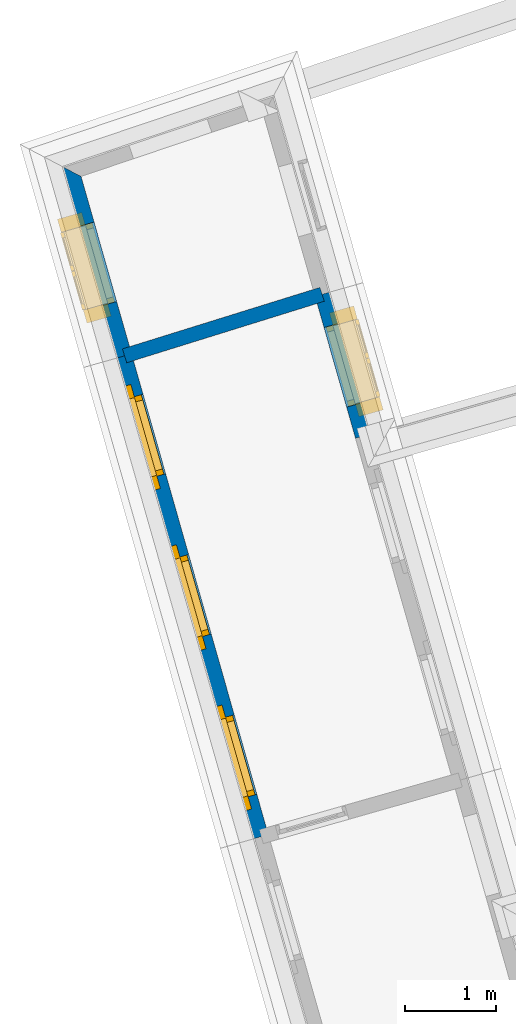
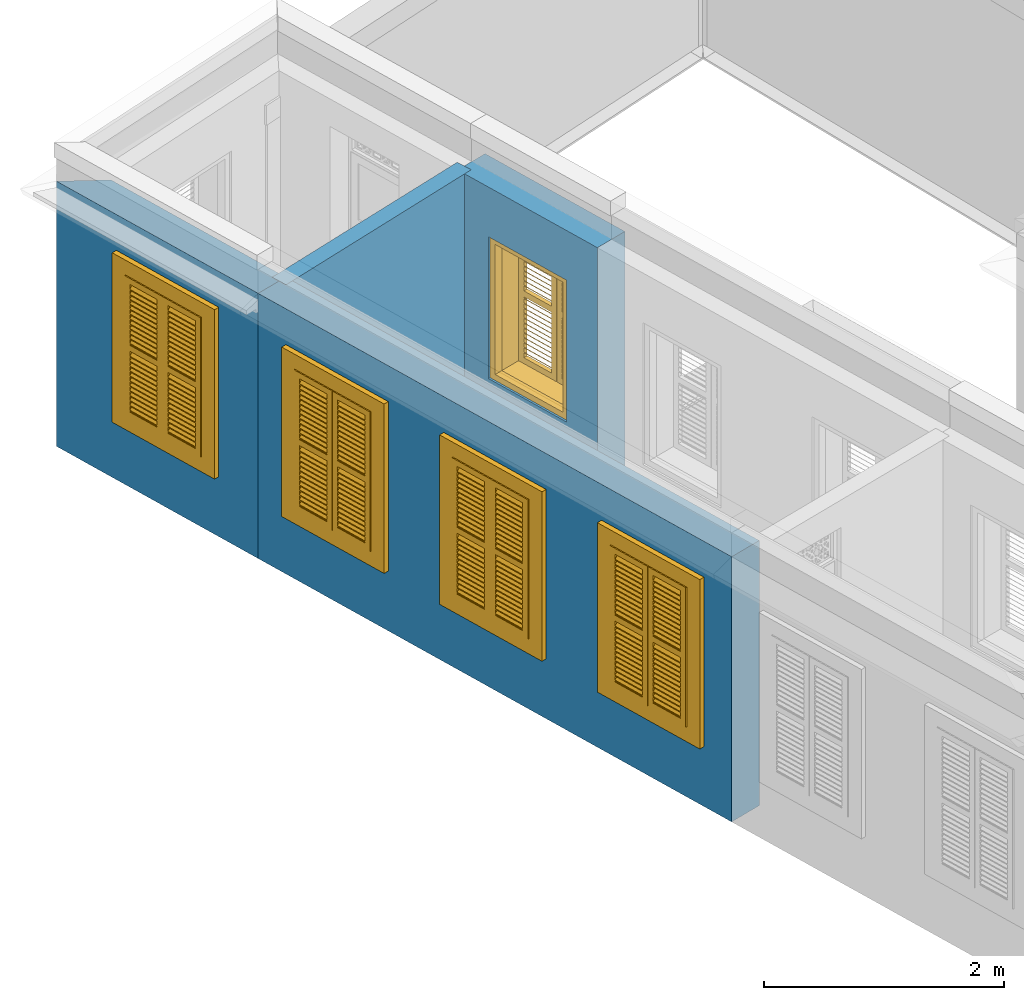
# One storey, part 7 of 13: 5 windows, 4 walls, 5 openings.
"""IFC4 building model written with IfcOpenShell, lengths in metres."""

import ifcopenshell
import ifcopenshell.guid

model = None  # the IFC model being written
_history = None  # IfcOwnerHistory: only IFC2X3 demands one
_inside = {}  # id of a spatial element -> (the spatial element, [elements in it])
_under = {}  # id of a project, library or spatial element -> (it, [spatial elements below it])
_declared = {}  # id of a project -> (the project, [libraries it declares])
_typed = {}  # id of a type object -> (the type object, [elements of that type])
_made_of = {}  # id of a material, layer set ... -> (it, [elements and type objects made of it])


def new_model(schema):
    """Start an empty IFC model of exactly this schema.

    Asked for "IFC4X3", IfcOpenShell would pick the latest addendum, in which some entities
    have other attributes; the version numbers below select the first issue.
    IFC2X3 requires an IfcOwnerHistory on every rooted entity: one is made here for all.
    """
    global model, _history
    if schema == "IFC4X3":
        model = ifcopenshell.file(schema_version=(4, 3, 0, 0))
    else:
        model = ifcopenshell.file(schema=schema)
    _inside.clear()
    _under.clear()
    _declared.clear()
    _typed.clear()
    _made_of.clear()
    _history = None
    if model.schema == "IFC2X3":
        org = make("IfcOrganization", Name="unknown")
        user = make(
            "IfcPersonAndOrganization",
            ThePerson=make("IfcPerson", FamilyName="unknown"),
            TheOrganization=org,
        )
        app = make(
            "IfcApplication",
            ApplicationDeveloper=org,
            Version="unknown",
            ApplicationFullName="unknown",
            ApplicationIdentifier="unknown",
        )
        _history = make(
            "IfcOwnerHistory",
            OwningUser=user,
            OwningApplication=app,
            ChangeAction="ADDED",
            CreationDate=0,
        )
    return model


def make(cls, **values):
    """One entity of the class cls with the attributes given. An attribute that is None is left unset."""
    return model.create_entity(
        cls, **{name: value for name, value in values.items() if value is not None}
    )


def rooted(cls, **values):
    """An entity with a GlobalId (a new one), such as an element, a storey or a relation."""
    return make(cls, GlobalId=ifcopenshell.guid.new(), OwnerHistory=_history, **values)


def si_unit(unit_type, name, prefix=None):
    """IfcSIUnit, for example si_unit("LENGTHUNIT", "METRE", prefix="MILLI")."""
    return make("IfcSIUnit", UnitType=unit_type, Prefix=prefix, Name=name)


def assignment(units):
    """IfcUnitAssignment: the units of a project."""
    return None if units is None else make("IfcUnitAssignment", Units=units)


def point(xyz):
    """IfcCartesianPoint."""
    return None if xyz is None else make("IfcCartesianPoint", Coordinates=xyz)


def direction(xyz):
    """IfcDirection."""
    return None if xyz is None else make("IfcDirection", DirectionRatios=xyz)


def frame(location, z_axis=None, x_axis=None):
    """IfcAxis2Placement3D, a coordinate frame: its origin and axes. An axis left out is left unset."""
    return make(
        "IfcAxis2Placement3D",
        Location=point(location),
        Axis=direction(z_axis),
        RefDirection=direction(x_axis),
    )


def origin():
    """The frame at (0, 0, 0) with its axes left unset."""
    return frame((0.0, 0.0, 0.0))


def origin_with_axes():
    """The frame at (0, 0, 0) with the z axis (0, 0, 1) and the x axis (1, 0, 0) written out."""
    return frame((0.0, 0.0, 0.0), z_axis=(0.0, 0.0, 1.0), x_axis=(1.0, 0.0, 0.0))


def place(relative_to, where):
    """IfcLocalPlacement: puts the frame where relative to a parent placement (None: the world)."""
    return make(
        "IfcLocalPlacement", PlacementRelTo=relative_to, RelativePlacement=where
    )


def context(
    kind, dimensions, precision=None, world=None, true_north=None, identifier=None
):
    """IfcGeometricRepresentationContext, for example the 3D "Model" context."""
    return make(
        "IfcGeometricRepresentationContext",
        ContextIdentifier=identifier,
        ContextType=kind,
        CoordinateSpaceDimension=dimensions,
        Precision=precision,
        WorldCoordinateSystem=world,
        TrueNorth=true_north,
    )


def subcontext(parent, identifier, kind, view, scale=None):
    """IfcGeometricRepresentationSubContext, for example "Body" below "Model"."""
    return make(
        "IfcGeometricRepresentationSubContext",
        ContextIdentifier=identifier,
        ContextType=kind,
        ParentContext=parent,
        TargetScale=scale,
        TargetView=view,
    )


def project(units=None, contexts=None):
    """IfcProject with its units and contexts."""
    return rooted(
        "IfcProject",
        Name="project",
        RepresentationContexts=contexts,
        UnitsInContext=assignment(units),
    )


def spatial(cls, under=None, at=None, **own):
    """A site, building, storey or space (cls), placed at a placement, below another one or the project."""
    s = rooted(cls, ObjectPlacement=at, **own)
    if under is not None:
        _under.setdefault(under.id(), (under, []))[1].append(s)
    return s


def polyline(points):
    """IfcPolyline through the points."""
    return make("IfcPolyline", Points=[point(p) for p in points])


def outline(outer, holes=None, kind="AREA"):
    """IfcArbitraryClosedProfileDef: a profile drawn as a closed curve; with holes, ...WithVoids."""
    if holes is None:
        return make("IfcArbitraryClosedProfileDef", ProfileType=kind, OuterCurve=outer)
    return make(
        "IfcArbitraryProfileDefWithVoids",
        ProfileType=kind,
        OuterCurve=outer,
        InnerCurves=holes,
    )


def extrude(swept, where, along, depth):
    """IfcExtrudedAreaSolid: the profile swept, set in the frame where, extruded along a direction by depth."""
    return make(
        "IfcExtrudedAreaSolid",
        SweptArea=swept,
        Position=where,
        ExtrudedDirection=direction(along),
        Depth=depth,
    )


def faces_of(points, faces, orient=None, outer=None):
    """IfcFace entities. A face is a list of loops; a loop is a list of indices into points, from 0.

    orient and outer hold one flag for each loop. By default every Orientation is true, the
    first loop of a face is its IfcFaceOuterBound and the others are IfcFaceBound.
    """
    made = []
    for i, loops in enumerate(faces):
        bounds = []
        for j, loop in enumerate(loops):
            is_outer = j == 0 if outer is None else outer[i][j]
            bounds.append(
                make(
                    "IfcFaceOuterBound" if is_outer else "IfcFaceBound",
                    Bound=make("IfcPolyLoop", Polygon=[points[k] for k in loop]),
                    Orientation=True if orient is None else orient[i][j],
                )
            )
        made.append(make("IfcFace", Bounds=bounds))
    return made


def faceted_brep(points, faces, orient=None, outer=None, voids=None):
    """IfcFacetedBrep: a solid bounded by flat faces; with voids (closed shells), ...WithVoids."""
    shared = [point(p) for p in points]
    hull = make("IfcClosedShell", CfsFaces=faces_of(shared, faces, orient, outer))
    if voids is None:
        return make("IfcFacetedBrep", Outer=hull)
    return make(
        "IfcFacetedBrepWithVoids",
        Outer=hull,
        Voids=[
            make(cls, CfsFaces=faces_of(shared, fs, o, b)) for cls, fs, o, b in voids
        ],
    )


def shape(context_of_items, identifier, shape_type, items):
    """IfcShapeRepresentation: the items that make up one representation, for example the "Body"."""
    return make(
        "IfcShapeRepresentation",
        ContextOfItems=context_of_items,
        RepresentationIdentifier=identifier,
        RepresentationType=shape_type,
        Items=items,
    )


def source(mapping_origin, context_of_items, identifier, shape_type, items):
    """IfcRepresentationMap: a shape defined once, which mapped items show again and again."""
    return make(
        "IfcRepresentationMap",
        MappingOrigin=mapping_origin,
        MappedRepresentation=shape(context_of_items, identifier, shape_type, items),
    )


def transform(
    local_origin,
    x_axis=None,
    y_axis=None,
    z_axis=None,
    scale=None,
    scale2=None,
    scale3=None,
    uniform=True,
):
    """IfcCartesianTransformationOperator3D, or its non-uniform kind. x_axis, y_axis, z_axis: its Axis1, 2, 3."""
    if uniform:
        return make(
            "IfcCartesianTransformationOperator3D",
            Axis1=direction(x_axis),
            Axis2=direction(y_axis),
            LocalOrigin=point(local_origin),
            Scale=scale,
            Axis3=direction(z_axis),
        )
    return make(
        "IfcCartesianTransformationOperator3DnonUniform",
        Axis1=direction(x_axis),
        Axis2=direction(y_axis),
        LocalOrigin=point(local_origin),
        Scale=scale,
        Axis3=direction(z_axis),
        Scale2=scale2,
        Scale3=scale3,
    )


def mapped(mapping_source, mapping_target):
    """IfcMappedItem: shows the shape of a source again, moved by a transform."""
    return make(
        "IfcMappedItem", MappingSource=mapping_source, MappingTarget=mapping_target
    )


def material(Name=None, Category=None):
    """IfcMaterial."""
    return make("IfcMaterial", Name=Name, Category=Category)


def layer(
    of_material, thickness, ventilated=None, Name=None, Category=None, Priority=None
):
    """IfcMaterialLayer: one layer of a wall or slab, of a material (None: an air gap)."""
    return make(
        "IfcMaterialLayer",
        Material=of_material,
        LayerThickness=thickness,
        IsVentilated=ventilated,
        Name=Name,
        Category=Category,
        Priority=Priority,
    )


def layer_set(layers, Name=None):
    """IfcMaterialLayerSet."""
    return make("IfcMaterialLayerSet", MaterialLayers=layers, LayerSetName=Name)


def layer_usage(for_layer_set, set_direction, sense, offset, extent=None):
    """IfcMaterialLayerSetUsage: how a layer set lies in its element."""
    return make(
        "IfcMaterialLayerSetUsage",
        ForLayerSet=for_layer_set,
        LayerSetDirection=set_direction,
        DirectionSense=sense,
        OffsetFromReferenceLine=offset,
        ReferenceExtent=extent,
    )


def made_of(thing, what):
    """Note that an element or type object is made of a material, layer set ...; save() writes the relation."""
    if what is not None:
        _made_of.setdefault(what.id(), (what, []))[1].append(thing)
    return thing


def type_object(cls, material=None, **own):
    """A type object (cls), such as IfcWallType, which elements share."""
    return made_of(rooted(cls, **own), material)


def type_shapes(of_type, sources):
    """Give a type object the sources (RepresentationMaps) that its elements show as mapped items."""
    of_type.RepresentationMaps = sources


def element(
    cls,
    number,
    at=None,
    inside=None,
    cuts=None,
    type_object=None,
    material=None,
    context=None,
    identifier="Body",
    shape_type=None,
    held_by="IfcProductDefinitionShape",
    body=None,
    shapes=None,
    **own,
):
    """One element of the class cls, such as IfcWall. Its Tag is "e" and its number.

    at: its placement. inside: the storey or other place that contains it. cuts: it is an
    opening in that element (IfcRelVoidsElement). A single representation is given by context,
    identifier, shape_type and body (its items); several are given by shapes. held_by: the class
    of the entity that holds the representations. save() writes the other relations.
    """
    e = rooted(cls, Tag="e%d" % number, ObjectPlacement=at, **own)
    if body is not None:
        shapes = [shape(context, identifier, shape_type, body)]
    if shapes is not None:
        e.Representation = make(held_by, Representations=shapes)
    if inside is not None:
        _inside.setdefault(inside.id(), (inside, []))[1].append(e)
    if cuts is not None:
        rooted(
            "IfcRelVoidsElement", RelatingBuildingElement=cuts, RelatedOpeningElement=e
        )
    if type_object is not None:
        _typed.setdefault(type_object.id(), (type_object, []))[1].append(e)
    return made_of(e, material)


def fill(opening, filler):
    """IfcRelFillsElement: the door or window that sits in an opening."""
    return rooted(
        "IfcRelFillsElement",
        RelatingOpeningElement=opening,
        RelatedBuildingElement=filler,
    )


def aggregate(whole, parts):
    """IfcRelAggregates: a whole, such as a stair, and the parts it consists of."""
    return rooted("IfcRelAggregates", RelatingObject=whole, RelatedObjects=parts)


def save(model, path):
    """Write the relations noted so far, then the file.

    IfcRelAggregates (storeys below a building ...), IfcRelContainedInSpatialStructure (elements
    in a storey), IfcRelDefinesByType, IfcRelAssociatesMaterial and IfcRelDeclares: one each for
    every whole, place, type object, material and project.
    """
    for whole, parts in _under.values():
        aggregate(whole, parts)
    for where, things in _inside.values():
        rooted(
            "IfcRelContainedInSpatialStructure",
            RelatedElements=things,
            RelatingStructure=where,
        )
    for kind, things in _typed.values():
        rooted("IfcRelDefinesByType", RelatedObjects=things, RelatingType=kind)
    for what, things in _made_of.values():
        rooted("IfcRelAssociatesMaterial", RelatedObjects=things, RelatingMaterial=what)
    for by, libraries in _declared.values():
        rooted("IfcRelDeclares", RelatingContext=by, RelatedDefinitions=libraries)
    model.write(path)


model = new_model("IFC4")

# Units and contexts
model_context = context("Model", 3, world=origin_with_axes())
body_context = subcontext(model_context, "Body", "Model", "MODEL_VIEW")
ifc_project = project(units=[si_unit("PLANEANGLEUNIT", "RADIAN"), si_unit("MASSUNIT", "GRAM", prefix="KILO"), si_unit("FORCEUNIT", "NEWTON", prefix="KILO"), si_unit("LENGTHUNIT", "METRE"), si_unit("AREAUNIT", "SQUARE_METRE"), si_unit("VOLUMEUNIT", "CUBIC_METRE")], contexts=[model_context, model_context])

# Site, building, storey
site_placement = place(None, origin_with_axes())
site = spatial("IfcSite", under=ifc_project, at=site_placement, Name="Site plot-3", CompositionType="ELEMENT")
building_placement = place(None, origin_with_axes())
building = spatial("IfcBuilding", under=site, at=building_placement, Name="Building plot-3", CompositionType="ELEMENT")
storey_placement = place(None, frame((0.0, 0.0, 3.3), z_axis=(0.0, 0.0, 1.0), x_axis=(1.0, 0.0, 0.0)))
storey = spatial("IfcBuildingStorey", under=building, at=storey_placement, Name="plot-3 1", CompositionType="ELEMENT", Elevation=3.3)

# Wall, opening, window
ifc_material_1 = material(Name="Masonry")
ifc_layer_1 = layer(ifc_material_1, 0.33, ventilated=False)
ifc_layer_set_1 = layer_set([ifc_layer_1], Name="exterior_0.08_0.25")
ifc_layer_usage_1 = layer_usage(ifc_layer_set_1, "AXIS2", "POSITIVE", -0.25)
wall_type_1 = type_object("IfcWallType", Name="exterior_0.08_0.25", PredefinedType="SOLIDWALL", material=ifc_layer_set_1)
wall_1_placement = place(storey_placement, frame((10.0595193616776, 25.1326103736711, 0.0), z_axis=(0.0, 0.0, 1.0), x_axis=(-0.273606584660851, 0.961841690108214, 0.0)))
wall_1 = element("IfcWall", 1, at=wall_1_placement, inside=storey, type_object=wall_type_1, material=ifc_layer_usage_1, Name="exterior", context=body_context, shape_type="SweptSolid", body=[
    extrude(outline(polyline([(2.27863534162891e-15, 0.0800000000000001), (-6.64603006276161e-15, -0.25), (1.62516782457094, -0.250000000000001), (1.62516782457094, 0.0800000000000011), (2.27863534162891e-15, 0.0800000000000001)])), origin_with_axes(), (0.0, 0.0, 1.0), 2.7),
])
opening_1_placement = place(wall_1_placement, frame((0.357583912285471, 0.0, 0.75)))
opening_1 = element("IfcOpeningElement", 2, at=opening_1_placement, cuts=wall_1, Name="My Opening", ObjectType="Opening", context=body_context, shape_type="SweptSolid", body=[
    extrude(outline(polyline([(0.0, -0.270000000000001), (0.909999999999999, -0.270000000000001), (0.909999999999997, 1.1), (-2.27595720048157e-15, 1.1), (0.0, -0.270000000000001)])), origin_with_axes(), (0.0, 0.0, 1.0), 1.445),
])
window_type = type_object("IfcWindowType", Name="shuttered_shorter", PartitioningType="DOUBLE_PANEL_HORIZONTAL", PredefinedType="NOTDEFINED")
shared_shape = source(origin(), body_context, "Body", "Brep", [
    faceted_brep([(0.393, 0.0, 0.622), (0.074, 0.0, 0.622), (0.074, 0.0, 0.632), (0.393, 0.0, 0.632), (0.074, -0.04, 0.592), (0.393, -0.04, 0.592), (0.393, -0.04, 0.582), (0.074, -0.04, 0.582), (0.517, 0.0, 0.682), (0.836, 0.0, 0.682), (0.836, 0.0, 0.672), (0.517, 0.0, 0.672), (0.517, -0.04, 0.642), (0.836, -0.04, 0.642), (0.836, -0.04, 0.632), (0.517, -0.04, 0.632), (0.517, 0.0, 0.632), (0.836, 0.0, 0.632), (0.836, 0.0, 0.622), (0.517, 0.0, 0.622), (0.517, -0.04, 0.592), (0.836, -0.04, 0.592), (0.836, -0.04, 0.582), (0.517, -0.04, 0.582), (0.517, 0.0, 0.232), (0.836, 0.0, 0.232), (0.836, 0.0, 0.222), (0.517, 0.0, 0.222), (0.517, -0.04, 0.192), (0.836, -0.04, 0.192), (0.836, -0.04, 0.182), (0.517, -0.04, 0.182), (0.517, 0.0, 0.532), (0.836, 0.0, 0.532), (0.836, 0.0, 0.522), (0.517, 0.0, 0.522), (0.517, -0.04, 0.492), (0.836, -0.04, 0.492), (0.836, -0.04, 0.482), (0.517, -0.04, 0.482), (0.517, 0.0, 0.482), (0.836, 0.0, 0.482), (0.836, 0.0, 0.472), (0.517, 0.0, 0.472), (0.517, -0.04, 0.442), (0.836, -0.04, 0.442), (0.836, -0.04, 0.432), (0.517, -0.04, 0.432), (0.517, 0.0, 0.582), (0.836, 0.0, 0.582), (0.836, 0.0, 0.572), (0.517, 0.0, 0.572), (0.517, -0.04, 0.542), (0.836, -0.04, 0.542), (0.836, -0.04, 0.532), (0.517, -0.04, 0.532), (0.517, 0.0, 0.182), (0.836, 0.0, 0.182), (0.836, 0.0, 0.172), (0.517, 0.0, 0.172), (0.517, -0.04, 0.142), (0.836, -0.04, 0.142), (0.836, -0.04, 0.132), (0.517, -0.04, 0.132), (0.517, 0.0, 0.382), (0.836, 0.0, 0.382), (0.836, 0.0, 0.372), (0.517, 0.0, 0.372), (0.517, -0.04, 0.342), (0.836, -0.04, 0.342), (0.836, -0.04, 0.332), (0.517, -0.04, 0.332), (0.517, 0.0, 0.432), (0.836, 0.0, 0.432), (0.836, 0.0, 0.422), (0.517, 0.0, 0.422), (0.517, -0.04, 0.392), (0.836, -0.04, 0.392), (0.836, -0.04, 0.382), (0.517, -0.04, 0.382), (0.517, 0.0, 0.132), (0.836, 0.0, 0.132), (0.836, 0.0, 0.122), (0.517, 0.0, 0.122), (0.517, -0.04, 0.092), (0.836, -0.04, 0.092), (0.836, -0.04, 0.082), (0.517, -0.04, 0.082), (0.517, 0.0, 0.282), (0.836, 0.0, 0.282), (0.836, 0.0, 0.272), (0.517, 0.0, 0.272), (0.517, -0.04, 0.242), (0.836, -0.04, 0.242), (0.836, -0.04, 0.232), (0.517, -0.04, 0.232), (0.517, 0.0, 0.332), (0.836, 0.0, 0.332), (0.836, 0.0, 0.322), (0.517, 0.0, 0.322), (0.517, -0.04, 0.292), (0.836, -0.04, 0.292), (0.836, -0.04, 0.282), (0.517, -0.04, 0.282), (0.517, 0.0, 1.362667), (0.836, 0.0, 1.362667), (0.836, 0.0, 1.352667), (0.517, 0.0, 1.352667), (0.517, -0.04, 1.322667), (0.836, -0.04, 1.322667), (0.836, -0.04, 1.312667), (0.517, -0.04, 1.312667), (0.517, 0.0, 1.312667), (0.836, 0.0, 1.312667), (0.836, 0.0, 1.302667), (0.517, 0.0, 1.302667), (0.517, -0.04, 1.272667), (0.836, -0.04, 1.272667), (0.836, -0.04, 1.262667), (0.517, -0.04, 1.262667), (0.517, 0.0, 0.912667), (0.836, 0.0, 0.912667), (0.836, 0.0, 0.902667), (0.517, 0.0, 0.902667), (0.517, -0.04, 0.872667), (0.836, -0.04, 0.872667), (0.836, -0.04, 0.862667), (0.517, -0.04, 0.862667), (0.517, 0.0, 1.212667), (0.836, 0.0, 1.212667), (0.836, 0.0, 1.202667), (0.517, 0.0, 1.202667), (0.517, -0.04, 1.172667), (0.836, -0.04, 1.172667), (0.836, -0.04, 1.162667), (0.517, -0.04, 1.162667), (0.517, 0.0, 1.162667), (0.836, 0.0, 1.162667), (0.836, 0.0, 1.152667), (0.517, 0.0, 1.152667), (0.517, -0.04, 1.122667), (0.836, -0.04, 1.122667), (0.836, -0.04, 1.112667), (0.517, -0.04, 1.112667), (0.517, 0.0, 1.262667), (0.836, 0.0, 1.262667), (0.836, 0.0, 1.252667), (0.517, 0.0, 1.252667), (0.517, -0.04, 1.222667), (0.836, -0.04, 1.222667), (0.836, -0.04, 1.212667), (0.517, -0.04, 1.212667), (0.517, 0.0, 0.862667), (0.836, 0.0, 0.862667), (0.836, 0.0, 0.852667), (0.517, 0.0, 0.852667), (0.517, -0.04, 0.822667), (0.836, -0.04, 0.822667), (0.836, -0.04, 0.812667), (0.517, -0.04, 0.812667), (0.517, 0.0, 1.062667), (0.836, 0.0, 1.062667), (0.836, 0.0, 1.052667), (0.517, 0.0, 1.052667), (0.517, -0.04, 1.022667), (0.836, -0.04, 1.022667), (0.836, -0.04, 1.012667), (0.517, -0.04, 1.012667), (0.517, 0.0, 1.112667), (0.836, 0.0, 1.112667), (0.836, 0.0, 1.102667), (0.517, 0.0, 1.102667), (0.517, -0.04, 1.072667), (0.836, -0.04, 1.072667), (0.836, -0.04, 1.062667), (0.517, -0.04, 1.062667), (0.517, 0.0, 0.812667), (0.836, 0.0, 0.812667), (0.836, 0.0, 0.802667), (0.517, 0.0, 0.802667), (0.517, -0.04, 0.772667), (0.836, -0.04, 0.772667), (0.836, -0.04, 0.762667), (0.517, -0.04, 0.762667), (0.517, 0.0, 0.962667), (0.836, 0.0, 0.962667), (0.836, 0.0, 0.952667), (0.517, 0.0, 0.952667), (0.517, -0.04, 0.922667), (0.836, -0.04, 0.922667), (0.836, -0.04, 0.912667), (0.517, -0.04, 0.912667), (0.517, 0.0, 1.012667), (0.836, 0.0, 1.012667), (0.836, 0.0, 1.002667), (0.517, 0.0, 1.002667), (0.517, -0.04, 0.972667), (0.836, -0.04, 0.972667), (0.836, -0.04, 0.962667), (0.517, -0.04, 0.962667), (0.074, 0.0, 0.682), (0.393, 0.0, 0.682), (0.393, 0.0, 0.672), (0.074, 0.0, 0.672), (0.074, -0.04, 0.642), (0.393, -0.04, 0.642), (0.393, -0.04, 0.632), (0.074, -0.04, 0.632), (0.074, 0.0, 0.232), (0.393, 0.0, 0.232), (0.393, 0.0, 0.222), (0.074, 0.0, 0.222), (0.074, -0.04, 0.192), (0.393, -0.04, 0.192), (0.393, -0.04, 0.182), (0.074, -0.04, 0.182), (0.074, 0.0, 0.532), (0.393, 0.0, 0.532), (0.393, 0.0, 0.522), (0.074, 0.0, 0.522), (0.074, -0.04, 0.492), (0.393, -0.04, 0.492), (0.393, -0.04, 0.482), (0.074, -0.04, 0.482), (0.074, 0.0, 0.482), (0.393, 0.0, 0.482), (0.393, 0.0, 0.472), (0.074, 0.0, 0.472), (0.074, -0.04, 0.442), (0.393, -0.04, 0.442), (0.393, -0.04, 0.432), (0.074, -0.04, 0.432), (0.074, 0.0, 0.582), (0.393, 0.0, 0.582), (0.393, 0.0, 0.572), (0.074, 0.0, 0.572), (0.074, -0.04, 0.542), (0.393, -0.04, 0.542), (0.393, -0.04, 0.532), (0.074, -0.04, 0.532), (0.074, 0.0, 0.182), (0.393, 0.0, 0.182), (0.393, 0.0, 0.172), (0.074, 0.0, 0.172), (0.074, -0.04, 0.142), (0.393, -0.04, 0.142), (0.393, -0.04, 0.132), (0.074, -0.04, 0.132), (0.074, 0.0, 0.382), (0.393, 0.0, 0.382), (0.393, 0.0, 0.372), (0.074, 0.0, 0.372), (0.074, -0.04, 0.342), (0.393, -0.04, 0.342), (0.393, -0.04, 0.332), (0.074, -0.04, 0.332), (0.074, 0.0, 0.432), (0.393, 0.0, 0.432), (0.393, 0.0, 0.422), (0.074, 0.0, 0.422), (0.074, -0.04, 0.392), (0.393, -0.04, 0.392), (0.393, -0.04, 0.382), (0.074, -0.04, 0.382), (0.074, 0.0, 0.132), (0.393, 0.0, 0.132), (0.393, 0.0, 0.122), (0.074, 0.0, 0.122), (0.074, -0.04, 0.092), (0.393, -0.04, 0.092), (0.393, -0.04, 0.082), (0.074, -0.04, 0.082), (0.074, 0.0, 0.282), (0.393, 0.0, 0.282), (0.393, 0.0, 0.272), (0.074, 0.0, 0.272), (0.074, -0.04, 0.242), (0.393, -0.04, 0.242), (0.393, -0.04, 0.232), (0.074, -0.04, 0.232), (0.074, 0.0, 0.332), (0.393, 0.0, 0.332), (0.393, 0.0, 0.322), (0.074, 0.0, 0.322), (0.074, -0.04, 0.292), (0.393, -0.04, 0.292), (0.393, -0.04, 0.282), (0.074, -0.04, 0.282), (0.074, 0.0, 1.362667), (0.393, 0.0, 1.362667), (0.393, 0.0, 1.352667), (0.074, 0.0, 1.352667), (0.074, -0.04, 1.322667), (0.393, -0.04, 1.322667), (0.393, -0.04, 1.312667), (0.074, -0.04, 1.312667), (0.074, 0.0, 1.312667), (0.393, 0.0, 1.312667), (0.393, 0.0, 1.302667), (0.074, 0.0, 1.302667), (0.074, -0.04, 1.272667), (0.393, -0.04, 1.272667), (0.393, -0.04, 1.262667), (0.074, -0.04, 1.262667), (0.074, 0.0, 0.912667), (0.393, 0.0, 0.912667), (0.393, 0.0, 0.902667), (0.074, 0.0, 0.902667), (0.074, -0.04, 0.872667), (0.393, -0.04, 0.872667), (0.393, -0.04, 0.862667), (0.074, -0.04, 0.862667), (0.074, 0.0, 1.212667), (0.393, 0.0, 1.212667), (0.393, 0.0, 1.202667), (0.074, 0.0, 1.202667), (0.074, -0.04, 1.172667), (0.393, -0.04, 1.172667), (0.393, -0.04, 1.162667), (0.074, -0.04, 1.162667), (0.074, 0.0, 1.162667), (0.393, 0.0, 1.162667), (0.393, 0.0, 1.152667), (0.074, 0.0, 1.152667), (0.074, -0.04, 1.122667), (0.393, -0.04, 1.122667), (0.393, -0.04, 1.112667), (0.074, -0.04, 1.112667), (0.074, 0.0, 1.262667), (0.393, 0.0, 1.262667), (0.393, 0.0, 1.252667), (0.074, 0.0, 1.252667), (0.074, -0.04, 1.222667), (0.393, -0.04, 1.222667), (0.393, -0.04, 1.212667), (0.074, -0.04, 1.212667), (0.074, 0.0, 0.862667), (0.393, 0.0, 0.862667), (0.393, 0.0, 0.852667), (0.074, 0.0, 0.852667), (0.074, -0.04, 0.822667), (0.393, -0.04, 0.822667), (0.393, -0.04, 0.812667), (0.074, -0.04, 0.812667), (0.074, 0.0, 1.062667), (0.393, 0.0, 1.062667), (0.393, 0.0, 1.052667), (0.074, 0.0, 1.052667), (0.074, -0.04, 1.022667), (0.393, -0.04, 1.022667), (0.393, -0.04, 1.012667), (0.074, -0.04, 1.012667), (0.074, 0.0, 1.112667), (0.393, 0.0, 1.112667), (0.393, 0.0, 1.102667), (0.074, 0.0, 1.102667), (0.074, -0.04, 1.072667), (0.393, -0.04, 1.072667), (0.393, -0.04, 1.062667), (0.074, -0.04, 1.062667), (0.074, 0.0, 0.812667), (0.393, 0.0, 0.812667), (0.393, 0.0, 0.802667), (0.074, 0.0, 0.802667), (0.074, -0.04, 0.772667), (0.393, -0.04, 0.772667), (0.393, -0.04, 0.762667), (0.074, -0.04, 0.762667), (0.074, 0.0, 0.962667), (0.393, 0.0, 0.962667), (0.393, 0.0, 0.952667), (0.074, 0.0, 0.952667), (0.074, -0.04, 0.922667), (0.393, -0.04, 0.922667), (0.393, -0.04, 0.912667), (0.074, -0.04, 0.912667), (0.074, 0.0, 1.012667), (0.393, 0.0, 1.012667), (0.393, 0.0, 1.002667), (0.074, 0.0, 1.002667), (0.074, -0.04, 0.972667), (0.393, -0.04, 0.972667), (0.393, -0.04, 0.962667), (0.074, -0.04, 0.962667), (0.517, -0.04, 0.072), (0.457, -0.04, 0.012), (0.896, -0.04, 0.012), (0.836, -0.04, 0.072), (0.457, -0.04, 0.692667), (0.517, -0.04, 0.692667), (0.457, 0.0, 0.012), (0.896, 0.0, 0.012), (0.836, -0.04, 0.692667), (0.896, -0.04, 0.692667), (0.836, 0.0, 0.072), (0.517, 0.0, 0.072), (0.457, 0.0, 0.692667), (0.517, 0.0, 0.692667), (0.517, -0.04, 0.752666), (0.457, -0.04, 0.752666), (0.896, 0.0, 0.692667), (0.836, 0.0, 0.692667), (0.836, -0.04, 0.752666), (0.896, -0.04, 0.752666), (0.457, 0.0, 0.752666), (0.457, -0.04, 1.433333), (0.517, -0.04, 1.373333), (0.896, 0.0, 0.752666), (0.836, -0.04, 1.373333), (0.896, -0.04, 1.433333), (0.457, 0.0, 1.433333), (0.517, 0.0, 0.752666), (0.836, 0.0, 0.752666), (0.517, 0.0, 1.373333), (0.896, 0.0, 1.433333), (0.836, 0.0, 1.373333), (0.074, -0.04, 0.072), (0.014, -0.04, 0.012), (0.453, -0.04, 0.012), (0.393, -0.04, 0.072), (0.014, -0.04, 0.692667), (0.074, -0.04, 0.692667), (0.014, 0.0, 0.012), (0.453, 0.0, 0.012), (0.393, -0.04, 0.692667), (0.453, -0.04, 0.692667), (0.393, 0.0, 0.072), (0.074, 0.0, 0.072), (0.014, 0.0, 0.692667), (0.074, 0.0, 0.692667), (0.074, -0.04, 0.752666), (0.014, -0.04, 0.752666), (0.453, 0.0, 0.692667), (0.393, 0.0, 0.692667), (0.393, -0.04, 0.752666), (0.453, -0.04, 0.752666), (0.014, 0.0, 0.752666), (0.014, -0.04, 1.433333), (0.074, -0.04, 1.373333), (0.453, 0.0, 0.752666), (0.393, -0.04, 1.373333), (0.453, -0.04, 1.433333), (0.014, 0.0, 1.433333), (0.074, 0.0, 0.752666), (0.393, 0.0, 0.752666), (0.074, 0.0, 1.373333), (0.453, 0.0, 1.433333), (0.393, 0.0, 1.373333), (0.0, 0.33, 1.445), (0.91, 0.33, 1.445), (0.85, 0.33, 1.385), (0.06, 0.33, 1.385), (0.91, 0.25, 1.445), (0.0, 0.25, 1.445), (0.91, 0.25, 1.445), (0.85, 0.33, 0.06), (0.91, 0.33, 0.0), (0.85, 0.25, 1.385), (0.06, 0.25, 1.385), (0.0, 0.33, 0.0), (0.06, 0.33, 0.06), (0.0, 0.25, 0.0), (0.91, 0.25, 0.0), (0.85, 0.25, 0.06), (0.06, 0.25, 0.06), (1.05, 0.25, 1.585), (-0.14, 0.25, 1.585), (-0.14, -0.03, 1.585), (1.05, -0.03, 1.585), (0.9, -0.03, 1.435), (0.01, -0.03, 1.435), (0.01, 0.25, 1.435), (0.9, 0.25, 1.435), (0.9, 0.25, 0.01), (0.9, -0.03, 0.01), (1.05, -0.03, -0.14), (1.05, 0.25, -0.14), (0.01, -0.03, 0.01), (0.01, 0.25, 0.01), (-0.14, -0.03, -0.14), (-0.14, 0.25, -0.14)], [[[0, 1, 2, 3]], [[4, 5, 3, 2]], [[5, 6, 0, 3]], [[1, 0, 6, 7]], [[2, 1, 7, 4]], [[5, 4, 7, 6]], [[8, 9, 10, 11]], [[12, 13, 9, 8]], [[13, 14, 10, 9]], [[14, 15, 11, 10]], [[15, 12, 8, 11]], [[13, 12, 15, 14]], [[16, 17, 18, 19]], [[20, 21, 17, 16]], [[21, 22, 18, 17]], [[22, 23, 19, 18]], [[23, 20, 16, 19]], [[21, 20, 23, 22]], [[24, 25, 26, 27]], [[28, 29, 25, 24]], [[29, 30, 26, 25]], [[30, 31, 27, 26]], [[31, 28, 24, 27]], [[29, 28, 31, 30]], [[32, 33, 34, 35]], [[36, 37, 33, 32]], [[37, 38, 34, 33]], [[38, 39, 35, 34]], [[39, 36, 32, 35]], [[37, 36, 39, 38]], [[40, 41, 42, 43]], [[44, 45, 41, 40]], [[45, 46, 42, 41]], [[46, 47, 43, 42]], [[47, 44, 40, 43]], [[45, 44, 47, 46]], [[48, 49, 50, 51]], [[52, 53, 49, 48]], [[53, 54, 50, 49]], [[54, 55, 51, 50]], [[55, 52, 48, 51]], [[53, 52, 55, 54]], [[56, 57, 58, 59]], [[60, 61, 57, 56]], [[61, 62, 58, 57]], [[62, 63, 59, 58]], [[63, 60, 56, 59]], [[61, 60, 63, 62]], [[64, 65, 66, 67]], [[68, 69, 65, 64]], [[69, 70, 66, 65]], [[70, 71, 67, 66]], [[71, 68, 64, 67]], [[69, 68, 71, 70]], [[72, 73, 74, 75]], [[76, 77, 73, 72]], [[77, 78, 74, 73]], [[78, 79, 75, 74]], [[79, 76, 72, 75]], [[77, 76, 79, 78]], [[80, 81, 82, 83]], [[84, 85, 81, 80]], [[85, 86, 82, 81]], [[86, 87, 83, 82]], [[87, 84, 80, 83]], [[85, 84, 87, 86]], [[88, 89, 90, 91]], [[92, 93, 89, 88]], [[93, 94, 90, 89]], [[94, 95, 91, 90]], [[95, 92, 88, 91]], [[93, 92, 95, 94]], [[96, 97, 98, 99]], [[100, 101, 97, 96]], [[101, 102, 98, 97]], [[102, 103, 99, 98]], [[103, 100, 96, 99]], [[101, 100, 103, 102]], [[104, 105, 106, 107]], [[108, 109, 105, 104]], [[109, 110, 106, 105]], [[110, 111, 107, 106]], [[111, 108, 104, 107]], [[109, 108, 111, 110]], [[112, 113, 114, 115]], [[116, 117, 113, 112]], [[117, 118, 114, 113]], [[118, 119, 115, 114]], [[119, 116, 112, 115]], [[117, 116, 119, 118]], [[120, 121, 122, 123]], [[124, 125, 121, 120]], [[125, 126, 122, 121]], [[126, 127, 123, 122]], [[127, 124, 120, 123]], [[125, 124, 127, 126]], [[128, 129, 130, 131]], [[132, 133, 129, 128]], [[133, 134, 130, 129]], [[134, 135, 131, 130]], [[135, 132, 128, 131]], [[133, 132, 135, 134]], [[136, 137, 138, 139]], [[140, 141, 137, 136]], [[141, 142, 138, 137]], [[142, 143, 139, 138]], [[139, 143, 140, 136]], [[141, 140, 143, 142]], [[144, 145, 146, 147]], [[148, 149, 145, 144]], [[149, 150, 146, 145]], [[150, 151, 147, 146]], [[151, 148, 144, 147]], [[149, 148, 151, 150]], [[152, 153, 154, 155]], [[156, 157, 153, 152]], [[157, 158, 154, 153]], [[158, 159, 155, 154]], [[159, 156, 152, 155]], [[157, 156, 159, 158]], [[160, 161, 162, 163]], [[164, 165, 161, 160]], [[165, 166, 162, 161]], [[166, 167, 163, 162]], [[167, 164, 160, 163]], [[165, 164, 167, 166]], [[168, 169, 170, 171]], [[172, 173, 169, 168]], [[173, 174, 170, 169]], [[174, 175, 171, 170]], [[175, 172, 168, 171]], [[173, 172, 175, 174]], [[176, 177, 178, 179]], [[180, 181, 177, 176]], [[181, 182, 178, 177]], [[182, 183, 179, 178]], [[183, 180, 176, 179]], [[181, 180, 183, 182]], [[184, 185, 186, 187]], [[188, 189, 185, 184]], [[189, 190, 186, 185]], [[190, 191, 187, 186]], [[191, 188, 184, 187]], [[189, 188, 191, 190]], [[192, 193, 194, 195]], [[196, 197, 193, 192]], [[197, 198, 194, 193]], [[198, 199, 195, 194]], [[199, 196, 192, 195]], [[197, 196, 199, 198]], [[200, 201, 202, 203]], [[204, 205, 201, 200]], [[205, 206, 202, 201]], [[206, 207, 203, 202]], [[207, 204, 200, 203]], [[205, 204, 207, 206]], [[208, 209, 210, 211]], [[212, 213, 209, 208]], [[213, 214, 210, 209]], [[214, 215, 211, 210]], [[215, 212, 208, 211]], [[213, 212, 215, 214]], [[216, 217, 218, 219]], [[220, 221, 217, 216]], [[221, 222, 218, 217]], [[222, 223, 219, 218]], [[223, 220, 216, 219]], [[221, 220, 223, 222]], [[224, 225, 226, 227]], [[228, 229, 225, 224]], [[229, 230, 226, 225]], [[230, 231, 227, 226]], [[231, 228, 224, 227]], [[229, 228, 231, 230]], [[232, 233, 234, 235]], [[236, 237, 233, 232]], [[237, 238, 234, 233]], [[238, 239, 235, 234]], [[239, 236, 232, 235]], [[237, 236, 239, 238]], [[240, 241, 242, 243]], [[244, 245, 241, 240]], [[245, 246, 242, 241]], [[246, 247, 243, 242]], [[247, 244, 240, 243]], [[245, 244, 247, 246]], [[248, 249, 250, 251]], [[252, 253, 249, 248]], [[253, 254, 250, 249]], [[254, 255, 251, 250]], [[255, 252, 248, 251]], [[253, 252, 255, 254]], [[256, 257, 258, 259]], [[260, 261, 257, 256]], [[261, 262, 258, 257]], [[262, 263, 259, 258]], [[263, 260, 256, 259]], [[261, 260, 263, 262]], [[264, 265, 266, 267]], [[268, 269, 265, 264]], [[269, 270, 266, 265]], [[270, 271, 267, 266]], [[271, 268, 264, 267]], [[269, 268, 271, 270]], [[272, 273, 274, 275]], [[276, 277, 273, 272]], [[277, 278, 274, 273]], [[278, 279, 275, 274]], [[279, 276, 272, 275]], [[277, 276, 279, 278]], [[280, 281, 282, 283]], [[284, 285, 281, 280]], [[285, 286, 282, 281]], [[286, 287, 283, 282]], [[287, 284, 280, 283]], [[285, 284, 287, 286]], [[288, 289, 290, 291]], [[292, 293, 289, 288]], [[293, 294, 290, 289]], [[294, 295, 291, 290]], [[295, 292, 288, 291]], [[293, 292, 295, 294]], [[296, 297, 298, 299]], [[300, 301, 297, 296]], [[301, 302, 298, 297]], [[302, 303, 299, 298]], [[303, 300, 296, 299]], [[301, 300, 303, 302]], [[304, 305, 306, 307]], [[308, 309, 305, 304]], [[309, 310, 306, 305]], [[310, 311, 307, 306]], [[311, 308, 304, 307]], [[309, 308, 311, 310]], [[312, 313, 314, 315]], [[316, 317, 313, 312]], [[317, 318, 314, 313]], [[318, 319, 315, 314]], [[319, 316, 312, 315]], [[317, 316, 319, 318]], [[320, 321, 322, 323]], [[324, 325, 321, 320]], [[325, 326, 322, 321]], [[326, 327, 323, 322]], [[327, 324, 320, 323]], [[325, 324, 327, 326]], [[328, 329, 330, 331]], [[332, 333, 329, 328]], [[333, 334, 330, 329]], [[334, 335, 331, 330]], [[335, 332, 328, 331]], [[333, 332, 335, 334]], [[336, 337, 338, 339]], [[340, 341, 337, 336]], [[341, 342, 338, 337]], [[342, 343, 339, 338]], [[343, 340, 336, 339]], [[341, 340, 343, 342]], [[344, 345, 346, 347]], [[348, 349, 345, 344]], [[349, 350, 346, 345]], [[350, 351, 347, 346]], [[351, 348, 344, 347]], [[349, 348, 351, 350]], [[352, 353, 354, 355]], [[356, 357, 353, 352]], [[357, 358, 354, 353]], [[358, 359, 355, 354]], [[359, 356, 352, 355]], [[357, 356, 359, 358]], [[360, 361, 362, 363]], [[364, 365, 361, 360]], [[365, 366, 362, 361]], [[366, 367, 363, 362]], [[367, 364, 360, 363]], [[365, 364, 367, 366]], [[368, 369, 370, 371]], [[372, 373, 369, 368]], [[373, 374, 370, 369]], [[374, 375, 371, 370]], [[375, 372, 368, 371]], [[373, 372, 375, 374]], [[376, 377, 378, 379]], [[380, 381, 377, 376]], [[381, 382, 378, 377]], [[382, 383, 379, 378]], [[383, 380, 376, 379]], [[381, 380, 383, 382]], [[384, 385, 386, 387]], [[388, 385, 384, 389]], [[390, 391, 386, 385]], [[392, 387, 386, 393]], [[384, 387, 394, 395]], [[390, 385, 388, 396]], [[389, 384, 395, 397]], [[389, 398, 399, 388]], [[390, 395, 394, 391]], [[400, 393, 386, 391]], [[387, 392, 401, 394]], [[402, 392, 393, 403]], [[396, 388, 399, 404]], [[390, 396, 397, 395]], [[392, 389, 397, 401]], [[398, 389, 392, 402]], [[405, 399, 398, 406]], [[394, 401, 400, 391]], [[407, 403, 393, 400]], [[408, 402, 403, 409]], [[404, 399, 405, 410]], [[411, 397, 396, 404]], [[397, 411, 412, 401]], [[398, 402, 412, 411]], [[406, 398, 411, 413]], [[405, 406, 408, 409]], [[401, 412, 407, 400]], [[414, 409, 403, 407]], [[402, 408, 415, 412]], [[405, 409, 414, 410]], [[404, 410, 413, 411]], [[408, 406, 413, 415]], [[412, 415, 414, 407]], [[413, 410, 414, 415]], [[416, 417, 418, 419]], [[420, 417, 416, 421]], [[422, 423, 418, 417]], [[424, 419, 418, 425]], [[416, 419, 426, 427]], [[422, 417, 420, 428]], [[421, 416, 427, 429]], [[421, 430, 431, 420]], [[422, 427, 426, 423]], [[432, 425, 418, 423]], [[419, 424, 433, 426]], [[434, 424, 425, 435]], [[428, 420, 431, 436]], [[422, 428, 429, 427]], [[424, 421, 429, 433]], [[430, 421, 424, 434]], [[437, 431, 430, 438]], [[426, 433, 432, 423]], [[439, 435, 425, 432]], [[440, 434, 435, 441]], [[436, 431, 437, 442]], [[443, 429, 428, 436]], [[429, 443, 444, 433]], [[430, 434, 444, 443]], [[438, 430, 443, 445]], [[437, 438, 440, 441]], [[433, 444, 439, 432]], [[446, 441, 435, 439]], [[434, 440, 447, 444]], [[437, 441, 446, 442]], [[436, 442, 445, 443]], [[440, 438, 445, 447]], [[444, 447, 446, 439]], [[445, 442, 446, 447]], [[448, 449, 450, 451]], [[452, 449, 448]], [[448, 453, 454]], [[448, 454, 452]], [[455, 450, 449, 456]], [[451, 450, 457, 458]], [[459, 448, 451, 460]], [[448, 459, 461, 453]], [[454, 453, 458, 457]], [[462, 452, 454]], [[454, 457, 463]], [[454, 463, 462]], [[456, 449, 452, 462]], [[450, 455, 463, 457]], [[456, 459, 460, 455]], [[460, 451, 458, 464]], [[459, 456, 462, 461]], [[464, 458, 453, 461]], [[461, 462, 463, 464]], [[455, 460, 464, 463]], [[465, 466, 467, 468]], [[469, 470, 471, 472]], [[473, 474, 469, 472]], [[465, 468, 475, 476]], [[470, 477, 478, 471]], [[474, 473, 478, 477]], [[474, 477, 479, 475]], [[470, 467, 479, 477]], [[470, 469, 468, 467]], [[474, 475, 468, 469]], [[471, 478, 480, 466]], [[473, 472, 465, 476]], [[473, 476, 480, 478]], [[466, 465, 472, 471]], [[480, 476, 475, 479]], [[480, 479, 467, 466]]]),
])
type_shapes(window_type, [shared_shape])
window_1_placement = place(storey_placement, frame((10.2213793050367, 25.5504232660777, 0.75), z_axis=(0.0, 0.0, 1.0), x_axis=(-0.248981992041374, 0.875275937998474, 0.0)))
window_1 = element("IfcWindow", 3, at=window_1_placement, inside=storey, type_object=window_type, Name="bedroom sahn window", OverallHeight=1.445, OverallWidth=0.91, context=body_context, shape_type="MappedRepresentation", body=[
    mapped(shared_shape, transform((0.0, 0.0, 0.0), scale=1.0)),
])
fill(opening_1, window_1)

wall_2_placement = place(storey_placement, frame((6.86386195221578, 28.0452215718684, 0.0), z_axis=(0.0, 0.0, 1.0), x_axis=(0.273606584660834, -0.961841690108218, 0.0)))
wall_2 = element("IfcWall", 4, at=wall_2_placement, inside=storey, type_object=wall_type_1, material=ifc_layer_usage_1, Name="exterior", context=body_context, shape_type="SweptSolid", body=[
    extrude(outline(polyline([(0.0762475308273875, 0.0800000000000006), (-0.23827353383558, -0.25), (2.10672390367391, -0.250000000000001), (2.10672390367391, 0.0800000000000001), (0.0762475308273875, 0.0800000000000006)])), origin_with_axes(), (0.0, 0.0, 1.0), 2.7),
])
opening_2_placement = place(wall_2_placement, frame((0.598361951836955, 0.0, 0.75)))
opening_2 = element("IfcOpeningElement", 5, at=opening_2_placement, cuts=wall_2, Name="My Opening", ObjectType="Opening", context=body_context, shape_type="SweptSolid", body=[
    extrude(outline(polyline([(0.0, -0.270000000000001), (0.91, -0.269999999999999), (0.909999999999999, 1.1), (3.33066907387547e-16, 1.1), (0.0, -0.270000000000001)])), origin_with_axes(), (0.0, 0.0, 1.0), 1.445),
])
window_2_placement = place(storey_placement, frame((6.76788046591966, 27.3958183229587, 0.75), z_axis=(0.0, 0.0, 1.0), x_axis=(0.24898199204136, -0.875275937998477, 0.0)))
window_2 = element("IfcWindow", 6, at=window_2_placement, inside=storey, type_object=window_type, Name="bedroom outside window", OverallHeight=1.445, OverallWidth=0.91, context=body_context, shape_type="MappedRepresentation", body=[
    mapped(shared_shape, transform((0.0, 0.0, 0.0), scale=1.0)),
])
fill(opening_2, window_2)

# Wall, openings, windows
wall_3_placement = place(storey_placement, frame((7.44027548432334, 26.0188866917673, 0.0), z_axis=(0.0, 0.0, 1.0), x_axis=(0.27360658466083, -0.961841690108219, 0.0)))
wall_3 = element("IfcWall", 7, at=wall_3_placement, inside=storey, type_object=wall_type_1, material=ifc_layer_usage_1, Name="exterior", context=body_context, shape_type="SweptSolid", body=[
    extrude(outline(polyline([(5.7333277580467e-16, 0.0800000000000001), (2.17452179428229e-15, -0.250000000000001), (5.50286574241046, -0.25), (5.50286574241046, 0.0800000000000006), (5.7333277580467e-16, 0.0800000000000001)])), origin_with_axes(), (0.0, 0.0, 1.0), 2.7),
])
opening_3_placement = place(wall_3_placement, frame((0.462144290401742, 0.0, 0.75)))
opening_3 = element("IfcOpeningElement", 8, at=opening_3_placement, cuts=wall_3, Name="My Opening", ObjectType="Opening", context=body_context, shape_type="SweptSolid", body=[
    extrude(outline(polyline([(0.0, -0.27), (0.910000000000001, -0.27), (0.910000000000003, 1.1), (1.33226762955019e-15, 1.1), (0.0, -0.27)])), origin_with_axes(), (0.0, 0.0, 1.0), 1.445),
])
opening_4_placement = place(wall_3_placement, frame((2.29643287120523, 0.0, 0.75)))
opening_4 = element("IfcOpeningElement", 9, at=opening_4_placement, cuts=wall_3, Name="My Opening", ObjectType="Opening", context=body_context, shape_type="SweptSolid", body=[
    extrude(outline(polyline([(0.0, -0.27), (0.909999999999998, -0.269999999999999), (0.909999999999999, 1.1), (1.77635683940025e-15, 1.1), (0.0, -0.27)])), origin_with_axes(), (0.0, 0.0, 1.0), 1.445),
])
opening_5_placement = place(wall_3_placement, frame((4.13072145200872, 0.0, 0.75)))
opening_5 = element("IfcOpeningElement", 10, at=opening_5_placement, cuts=wall_3, Name="My Opening", ObjectType="Opening", context=body_context, shape_type="SweptSolid", body=[
    extrude(outline(polyline([(0.0, -0.269999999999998), (0.91, -0.27), (0.91, 1.1), (8.88178419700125e-16, 1.1), (0.0, -0.269999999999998)])), origin_with_axes(), (0.0, 0.0, 1.0), 1.445),
])
window_3_placement = place(storey_placement, frame((7.30702394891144, 25.500503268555, 0.75), z_axis=(0.0, 0.0, 1.0), x_axis=(0.248981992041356, -0.875275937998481, 0.0)))
window_3 = element("IfcWindow", 11, at=window_3_placement, inside=storey, type_object=window_type, Name="bedroom outside window", OverallHeight=1.445, OverallWidth=0.91, context=body_context, shape_type="MappedRepresentation", body=[
    mapped(shared_shape, transform((0.0, 0.0, 0.0), scale=1.0)),
])
fill(opening_3, window_3)
window_4_placement = place(storey_placement, frame((7.80889738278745, 23.7362080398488, 0.75), z_axis=(0.0, 0.0, 1.0), x_axis=(0.248981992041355, -0.875275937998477, 0.0)))
window_4 = element("IfcWindow", 12, at=window_4_placement, inside=storey, type_object=window_type, Name="bedroom outside window", OverallHeight=1.445, OverallWidth=0.91, context=body_context, shape_type="MappedRepresentation", body=[
    mapped(shared_shape, transform((0.0, 0.0, 0.0), scale=1.0)),
])
fill(opening_4, window_4)
window_5_placement = place(storey_placement, frame((8.31077081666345, 21.9719128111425, 0.75), z_axis=(0.0, 0.0, 1.0), x_axis=(0.248981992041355, -0.875275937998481, 0.0)))
window_5 = element("IfcWindow", 13, at=window_5_placement, inside=storey, type_object=window_type, Name="bedroom outside window", OverallHeight=1.445, OverallWidth=0.91, context=body_context, shape_type="MappedRepresentation", body=[
    mapped(shared_shape, transform((0.0, 0.0, 0.0), scale=1.0)),
])
fill(opening_5, window_5)

# Wall
ifc_material_2 = material(Name="Masonry")
ifc_layer_2 = layer(ifc_material_2, 0.16, ventilated=False)
ifc_layer_set_2 = layer_set([ifc_layer_2], Name="interior_0.08_0.08")
ifc_layer_usage_2 = layer_usage(ifc_layer_set_2, "AXIS2", "POSITIVE", -0.08)
wall_type_2 = type_object("IfcWallType", Name="interior_0.08_0.08", PredefinedType="SOLIDWALL", material=ifc_layer_set_2)
wall_4_placement = place(storey_placement, frame((9.61486274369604, 26.6957645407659, 0.0), z_axis=(0.0, 0.0, 1.0), x_axis=(-0.95481447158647, -0.29720249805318, 0.0)))
element("IfcWall", 14, at=wall_4_placement, inside=storey, type_object=wall_type_2, material=ifc_layer_usage_2, Name="interior", context=body_context, shape_type="SweptSolid", body=[
    extrude(outline(polyline([(-2.27858582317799e-16, 0.0800000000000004), (2.00297839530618e-16, -0.0800000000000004), (2.27749717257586, -0.0800000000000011), (2.27749717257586, 0.0800000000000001), (-2.27858582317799e-16, 0.0800000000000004)])), origin_with_axes(), (0.0, 0.0, 1.0), 2.7),
])

save(model, "model.ifc")
